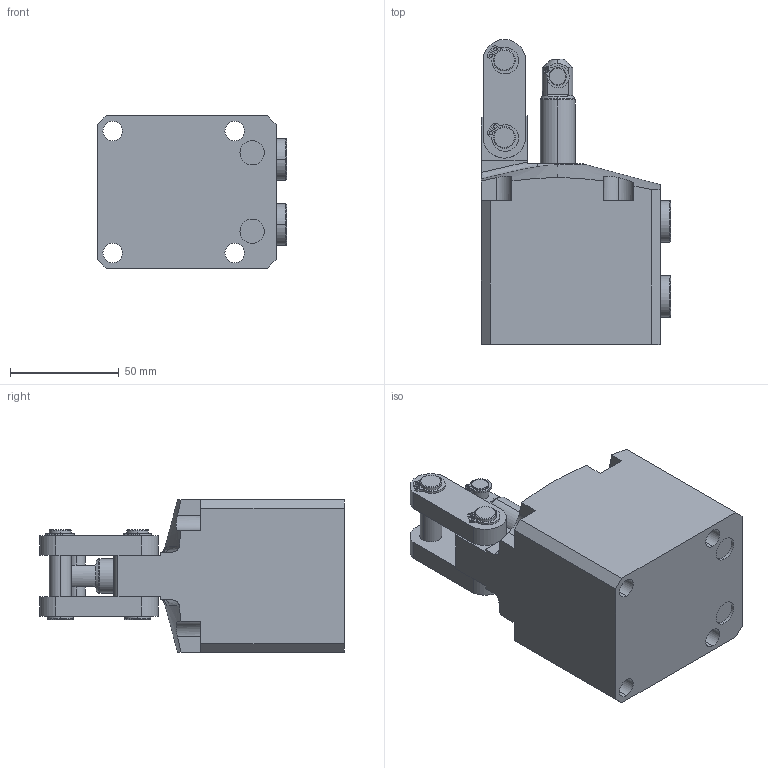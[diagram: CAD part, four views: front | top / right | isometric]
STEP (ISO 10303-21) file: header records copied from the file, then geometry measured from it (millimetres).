
FILE_DESCRIPTION(/* description */ (''),/* implementation_level */ '2;1');
FILE_NAME(/* name */ 'BPC10-F.stp',/* time_stamp */ '2025-01-05T10:01:44+08:00',/* author */ (''),/* organization */ (''),/* preprocessor_version */ 'ST-DEVELOPER v16.7',/* originating_system */ 'SIEMENS PLM Software NX 12.0',/* authorisation */ '');
FILE_SCHEMA (('AUTOMOTIVE_DESIGN { 1 0 10303 214 3 1 1 1 }'));
Length unit declared in the file: millimetre
Products named in the file (5): BPC10-F-01; BPC10-F-02; BPC10-F-04; BPC10-F-03; BPC10-F_stp
Assembly tree (5 placements, depth 2):
  BPC10-F_stp
    BPC10-F-03
    BPC10-F-04  x2
    BPC10-F-02
    BPC10-F-01
Bounding box: 86.8 x 140 x 70 mm (x, y, z)
Volume: 456722.8 mm3; surface area: 59999.4 mm2
Topology: 5 solids, 5 shells, 267 faces, 651 edges, 418 vertices
Faces by surface type: plane 112, cylinder 111, torus 21, cone 19, bspline 4
Entity records: 7751 total; most frequent: CARTESIAN_POINT 1663, DIRECTION 1308, ORIENTED_EDGE 1210, EDGE_CURVE 605, AXIS2_PLACEMENT_3D 506, VERTEX_POINT 390, LINE 296, VECTOR 296
